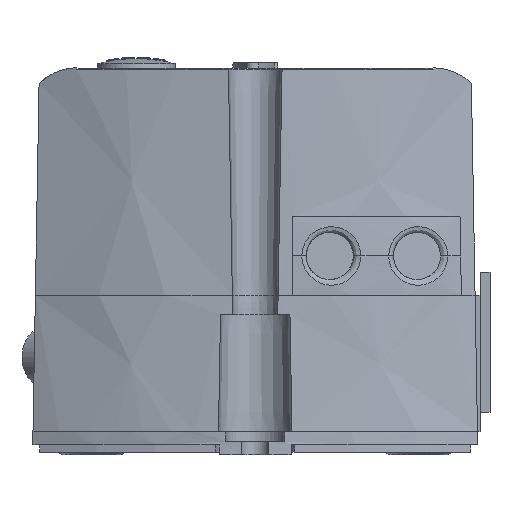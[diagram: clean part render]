
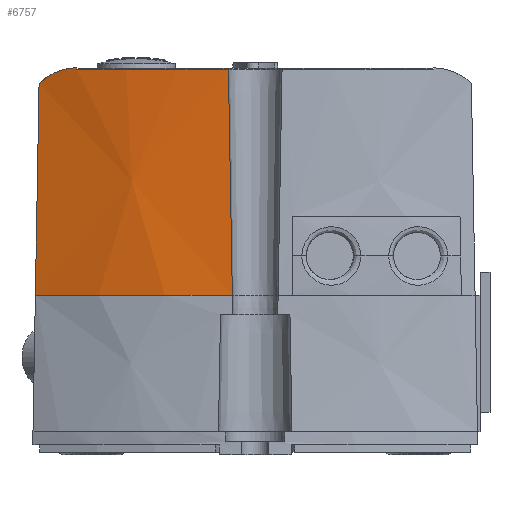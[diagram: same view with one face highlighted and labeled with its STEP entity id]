
A CAD part, left-side view. The second image highlights one B-rep face of the part: STEP entity #6757.
In plain terms, the highlighted conical face has half-angle 1 degrees and reference radius 80 mm.
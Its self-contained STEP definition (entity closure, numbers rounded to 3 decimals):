
#5129=CONICAL_SURFACE('',#17401,80.,1.);
#5152=CIRCLE('',#16319,79.635);
#5180=CIRCLE('',#16364,79.031);
#6757=ADVANCED_FACE('',(#7587),#5129,.T.);
#7587=FACE_OUTER_BOUND('',#8294,.T.);
#8294=EDGE_LOOP('',(#11528,#11529,#11530,#11531,#11532,#11533));
#8509=B_SPLINE_CURVE_WITH_KNOTS('',3,(#21753,#21754,#21755,#21756),
 .UNSPECIFIED.,.F.,.F.,(4,4),(0.,1.),.UNSPECIFIED.);
#8511=B_SPLINE_CURVE_WITH_KNOTS('',3,(#21762,#21763,#21764,#21765,#21766,
#21767,#21768),.UNSPECIFIED.,.F.,.F.,(4,3,4),(0.,0.001,1.),
 .UNSPECIFIED.);
#8518=B_SPLINE_CURVE_WITH_KNOTS('',3,(#21809,#21810,#21811,#21812),
 .UNSPECIFIED.,.F.,.F.,(4,4),(0.,1.),.UNSPECIFIED.);
#8767=B_SPLINE_CURVE_WITH_KNOTS('',3,(#27067,#27068,#27069,#27070),
 .UNSPECIFIED.,.F.,.F.,(4,4),(0.,1.),.UNSPECIFIED.);
#11528=ORIENTED_EDGE('',*,*,#13313,.F.);
#11529=ORIENTED_EDGE('',*,*,#13502,.T.);
#11530=ORIENTED_EDGE('',*,*,#13380,.F.);
#11531=ORIENTED_EDGE('',*,*,#13500,.F.);
#11532=ORIENTED_EDGE('',*,*,#13511,.F.);
#11533=ORIENTED_EDGE('',*,*,#14699,.F.);
#12241=VERTEX_POINT('',#21312);
#12243=VERTEX_POINT('',#21321);
#12300=VERTEX_POINT('',#21514);
#12301=VERTEX_POINT('',#21515);
#12401=VERTEX_POINT('',#21752);
#12404=VERTEX_POINT('',#21808);
#13313=EDGE_CURVE('',#12241,#12243,#5152,.T.);
#13380=EDGE_CURVE('',#12300,#12301,#5180,.T.);
#13500=EDGE_CURVE('',#12401,#12300,#8509,.T.);
#13502=EDGE_CURVE('',#12241,#12301,#8511,.T.);
#13511=EDGE_CURVE('',#12404,#12401,#8518,.T.);
#14699=EDGE_CURVE('',#12243,#12404,#8767,.T.);
#16319=AXIS2_PLACEMENT_3D('',#21320,#17707,#17708);
#16364=AXIS2_PLACEMENT_3D('',#21513,#17820,#17821);
#17401=AXIS2_PLACEMENT_3D('',#27071,#20375,#20376);
#17707=DIRECTION('',(0.,0.,-1.));
#17708=DIRECTION('',(0.,-1.,0.));
#17820=DIRECTION('',(0.,0.,1.));
#17821=DIRECTION('',(0.,-1.,0.));
#20375=DIRECTION('',(0.,0.,-1.));
#20376=DIRECTION('',(1.,0.,0.));
#21312=CARTESIAN_POINT('',(-93.803,3.5,24.));
#21320=CARTESIAN_POINT('',(-14.245,0.002,24.));
#21321=CARTESIAN_POINT('',(-86.429,33.635,24.));
#21513=CARTESIAN_POINT('',(-14.245,0.002,58.6));
#21514=CARTESIAN_POINT('',(-88.412,27.3,58.6));
#21515=CARTESIAN_POINT('',(-93.17,4.104,58.6));
#21752=CARTESIAN_POINT('',(-88.407,27.303,58.8));
#21753=CARTESIAN_POINT('',(-88.407,27.303,58.8));
#21754=CARTESIAN_POINT('',(-88.409,27.302,58.733));
#21755=CARTESIAN_POINT('',(-88.411,27.301,58.667));
#21756=CARTESIAN_POINT('',(-88.412,27.3,58.6));
#21762=CARTESIAN_POINT('',(-93.803,3.5,24.));
#21763=CARTESIAN_POINT('',(-93.803,3.5,24.013));
#21764=CARTESIAN_POINT('',(-93.803,3.5,24.026));
#21765=CARTESIAN_POINT('',(-93.803,3.501,24.04));
#21766=CARTESIAN_POINT('',(-93.593,3.702,35.56));
#21767=CARTESIAN_POINT('',(-93.382,3.903,47.08));
#21768=CARTESIAN_POINT('',(-93.17,4.104,58.6));
#21808=CARTESIAN_POINT('',(-86.068,33.07,56.406));
#21809=CARTESIAN_POINT('',(-86.068,33.07,56.406));
#21810=CARTESIAN_POINT('',(-86.761,31.501,57.926));
#21811=CARTESIAN_POINT('',(-87.622,29.439,58.763));
#21812=CARTESIAN_POINT('',(-88.407,27.303,58.8));
#27067=CARTESIAN_POINT('',(-86.429,33.635,24.));
#27068=CARTESIAN_POINT('',(-86.309,33.447,34.802));
#27069=CARTESIAN_POINT('',(-86.189,33.258,45.604));
#27070=CARTESIAN_POINT('',(-86.068,33.07,56.406));
#27071=CARTESIAN_POINT('',(-14.245,0.002,3.1));
